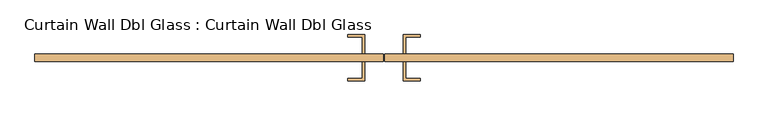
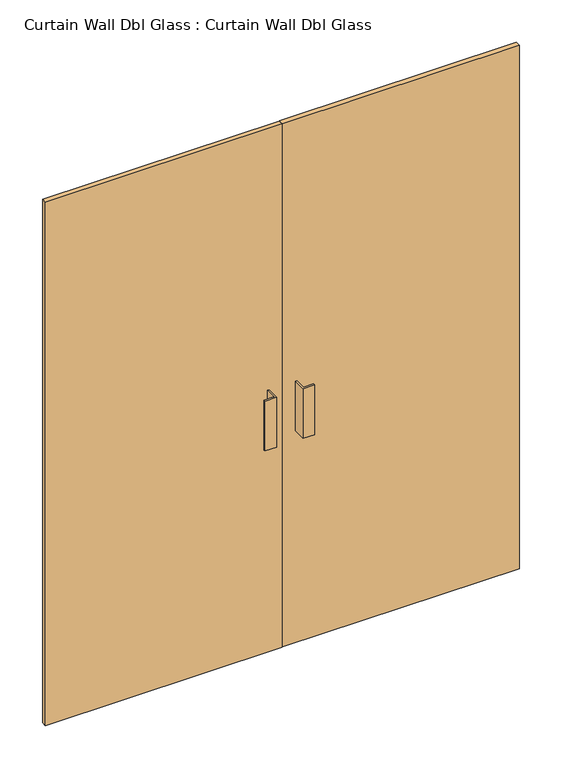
"""IFC4 building model written with IfcOpenShell, lengths in millimetres: door geometry, Curtain Wall Dbl Glass : Curtain Wall Dbl Glass."""

from ifc_helpers import new_model, si_unit, frame, origin, origin_with_axes, place, context, project, spatial, polyline, outline, extrude, source, transform, mapped, element, save


def curtain_wall_dbl_glass_curtain_wall_dbl_glass_a5de0235(model_context):
    return source(origin(), model_context, "Body", "SweptSolid", [
        extrude(outline(polyline([(-1.5875, -31.75), (-1.5875, -50.8), (-914.4, -50.8), (-914.4, -31.75), (-1.5875, -31.75)])), origin_with_axes(), (0.0, 0.0, 1.0), 2133.6),
        extrude(outline(polyline([(914.4, -31.75), (914.4, -50.8), (1.5875, -50.8), (1.5875, -31.75), (914.4, -31.75)])), origin_with_axes(), (0.0, 0.0, 1.0), 2133.6),
        extrude(outline(polyline([(-50.8, -101.6), (-95.25, -101.6), (-95.25, -95.25), (-57.15, -95.25), (-57.15, -50.8), (-50.8, -50.8), (-50.8, -101.6)])), frame((0.0, 0.0, 863.6), z_axis=(0.0, 0.0, 1.0), x_axis=(1.0, 0.0, 0.0)), (0.0, 0.0, 1.0), 203.2),
        extrude(outline(polyline([(50.8, -101.6), (50.8, -50.8), (57.15, -50.8), (57.15, -95.25), (95.25, -95.25), (95.25, -101.6), (50.8, -101.6)])), frame((0.0, 0.0, 863.6), z_axis=(0.0, 0.0, 1.0), x_axis=(1.0, 0.0, 0.0)), (0.0, 0.0, 1.0), 203.2),
        extrude(outline(polyline([(-50.8, 19.05), (-50.8, -31.75), (-57.15, -31.75), (-57.15, 12.7), (-95.25, 12.7), (-95.25, 19.05), (-50.8, 19.05)])), frame((0.0, 0.0, 863.6), z_axis=(0.0, 0.0, 1.0), x_axis=(1.0, 0.0, 0.0)), (0.0, 0.0, 1.0), 203.2),
        extrude(outline(polyline([(50.8, 19.05), (95.25, 19.05), (95.25, 12.7), (57.15, 12.7), (57.15, -31.75), (50.8, -31.75), (50.8, 19.05)])), frame((0.0, 0.0, 863.6), z_axis=(0.0, 0.0, 1.0), x_axis=(1.0, 0.0, 0.0)), (0.0, 0.0, 1.0), 203.2),
    ])


if __name__ == "__main__":
    model = new_model("IFC4")
    model_context = context("Model", 3, world=origin())
    ifc_project = project(units=[si_unit("LENGTHUNIT", "METRE", prefix="MILLI")], contexts=[model_context])
    site = spatial("IfcSite", under=ifc_project)
    building = spatial("IfcBuilding", under=site)
    placement = place(None, origin())
    curtain_wall_dbl_glass_curtain_wall_dbl_glass_shape = curtain_wall_dbl_glass_curtain_wall_dbl_glass_a5de0235(model_context)
    element("IfcDoor", 1, ObjectType="Curtain Wall Dbl Glass : Curtain Wall Dbl Glass", at=placement, inside=building, context=model_context, shape_type="MappedRepresentation", body=[
        mapped(curtain_wall_dbl_glass_curtain_wall_dbl_glass_shape, transform((0.0, 0.0, 0.0), x_axis=(1.0, 0.0, 0.0), y_axis=(0.0, 1.0, 0.0), z_axis=(0.0, 0.0, 1.0))),
    ])
    save(model, "model.ifc")
